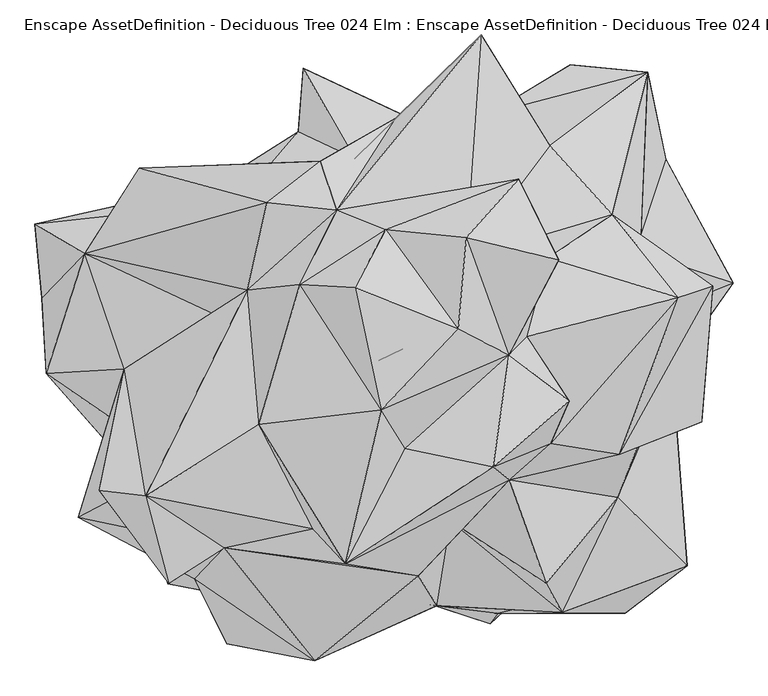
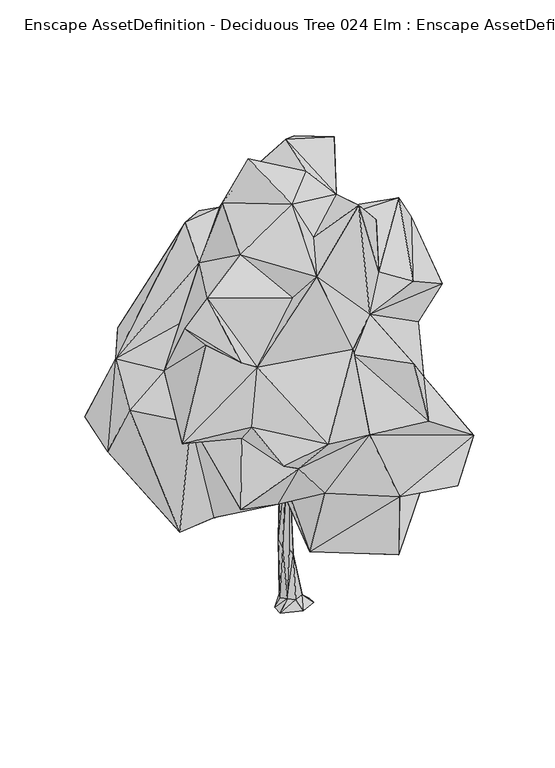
"""IFC4 building model written with IfcOpenShell, lengths in millimetres: geographic element geometry, Enscape AssetDefinition - Deciduous Tree 024 Elm : Enscape AssetDefinition - Deciduous Tree 024 Elm."""

from ifc_helpers import new_model, si_unit, origin, place, context, project, spatial, triangles, source, transform, mapped, element, save


def enscape_assetdefinition_deciduous_tree_024_elm_enscape_8f9d8ef3(model_context):
    return source(origin(), model_context, "Body", "Tessellation", [
        triangles([(399.4473478, 51.3433459, 8.4e-06), (116.8996051, 470.6509595, 7.67e-05), (414.2743498, -101.4714952, -1.65e-05), (115.2936258, -233.4533738, -3.8e-05), (82.9316567, 225.0079591, 1330.8777763), (249.1574843, 45.9123275, 138.6608949), (-113.9991554, 251.7051122, 157.0908837), (-28.7132456, 406.8779989, 6.63e-05), (-143.4901332, 226.2219475, 1412.5636333), (-161.5051128, 117.7262534, 167.2028755), (-98.1161768, -10.7666257, 205.31681), (-119.8971602, 109.5010833, 1270.5587837), (-281.381008, 109.7062851, 1.79e-05), (87.8856512, 88.0891362, 1067.7880211), (-29.369242, 30.9881589, 1260.9038498), (-20.0962547, 127.3247319, 3268.4377075), (45.847683, 179.5516857, 3264.4635315), (88.6356417, 338.1410245, 172.6388991), (46.148682, 263.7636058, 3263.5667839), (-78.834187, 269.4925984, 3270.003891), (-17.9152525, 286.6599009, 1389.8307186), (-102.0271663, 146.4107217, 3272.4979248), (-283.3269829, -95.1405136, -1.55e-05), (45.3076905, -78.6895646, 170.8398083), (3.3777281, 164.250821, 2505.7115891), (138.0966034, -825.3113245, 2827.0443008), (94.7586328, -833.5812412, 2834.8897522), (-51.0792178, 154.8678363, 2512.2934547), (-51.2032245, 183.8468087, 2552.4793739), (143.4115952, -816.5362787, 2865.5968895), (3.2537264, 193.2297934, 2545.8966362), (100.0746328, -824.8063408, 2873.4432129), (-370.3139517, 199.9007525, 2853.0982338), (-114.7981618, 178.2197903, 2641.9945496), (-87.9581849, 175.28078, 2699.3863953), (-1012.3212032, 284.8826293, 2979.622197), (-97.7131763, 263.4047251, 2651.2605537), (-84.4201923, 253.0057051, 2707.8445999), (-1005.0243376, 278.2096354, 3018.2730354), (-359.5869175, 190.0897234, 2909.9203468), (-368.5379336, 264.854673, 2863.9632683), (-1011.1132828, 329.0646163, 2987.0121529), (-357.8108994, 255.0436802, 2920.7850906), (-1003.8162718, 322.3905687, 3025.6629913), (33.3046986, 221.9467724, 2527.8175072), (1148.4995916, 490.0354231, 2988.0789482), (9.7687192, 282.053714, 2522.0998329), (-23.4122474, 273.48972, 2568.513279), (1131.6376848, 531.0373899, 2981.5563812), (1121.8286905, 533.1553928, 3020.1691406), (0.1237281, 213.3827602, 2574.2306625), (1138.6907427, 492.1533897, 3026.6911263), (1461.3994606, -1913.2647572, 6022.3980972), (2148.5237984, -1089.7975061, 4993.4504379), (2384.0084072, -486.2971338, 5763.7679535), (2814.4279198, -1746.3154999, 3855.9053375), (1616.5802502, -2192.3513557, 4858.2078209), (543.5072319, -1314.727454, 6173.6185181), (412.2733091, -2126.9073853, 4943.8866028), (999.7336721, -2202.3389729, 3406.268248), (2220.9946655, -2198.6750977, 3220.216523), (1405.2262905, -1340.0269272, 3509.7253052), (2671.1773613, 140.1805696, 4214.6340225), (2573.4144333, -771.1463894, 3081.1770447), (925.1358273, -2301.9969887, 2210.4804817), (531.4442691, -559.6486158, 3179.1411232), (319.9614292, -1755.2623375, 2610.1084145), (-679.1506239, -1162.6030186, 3302.7986916), (-646.0516994, -1786.1832699, 2509.2712555), (-453.5138515, -1994.6533939, 3864.1870995), (-1215.050108, -1617.2107349, 3657.2081635), (-2167.5162437, -1917.9585114, 4057.9136467), (-1952.6933098, -567.3235834, 2987.3429466), (-1608.8106663, 280.0867011, 2633.7677261), (-2697.1356606, -621.7964939, 2956.4843651), (-3336.1978157, 101.3554049, 5448.7179977), (-2623.6404373, 587.2153198, 3274.255085), (-1909.7363388, 1213.0925966, 3744.8336288), (-1749.4625462, 1078.6019686, 2428.7338749), (-974.7983482, 1170.2787855, 2995.6136627), (-1871.4334442, 1817.5179852, 4294.4663589), (-3375.4550125, 826.1199234, 4098.0338722), (-2586.3868973, 144.5772671, 6039.5371674), (-1851.1705822, -1404.1731571, 5215.528743), (-2418.6089115, -527.4429145, 5231.6777573), (-3028.3363747, -1281.8631809, 5437.0890564), (-2324.5139282, -910.8789213, 7151.7471863), (-1601.0566338, -2493.7951653, 5170.6803177), (-1911.3203991, -1870.7798504, 5763.6086609), (-1072.220236, -2128.6542263, 4713.9901703), (-759.575584, -2658.109845, 5469.4585922), (236.199518, -1840.8428696, 6727.3190231), (953.4227634, -796.0003956, 9035.5455734), (1109.8867596, -920.1158575, 6642.8916183), (2164.5078518, -676.8940756, 6851.1283264), (2955.5969193, -363.4792671, 6329.6607376), (1553.7223137, 280.0872643, 5348.4223755), (2362.7024403, 1184.4242884, 6023.6567413), (1506.1082142, -568.3282459, 7231.9132233), (1682.4741932, -163.4797561, 8079.545787), (1277.8135735, 456.5486953, 7902.4583405), (1478.4625179, 1208.2680365, 7551.703006), (2097.2587589, 1627.8247673, 6599.3820648), (2732.3561852, 830.9303856, 7590.1215912), (3063.2127342, 943.5924042, 6989.9838043), (2436.7964642, 2994.1846802, 5118.2654938), (1498.9712952, 2287.3350929, 6284.9489319), (1696.0751072, 3065.5809036, 4595.8017448), (911.1568113, 2592.9394043, 4927.1027435), (2612.2091583, 2159.5725426, 4567.238372), (2323.0176533, 1284.1114449, 5260.079512), (1075.0587255, 2334.3293175, 4360.8140533), (-375.86394, 2167.4852863, 5763.4697159), (3256.5904655, 971.2778509, 4150.3219597), (1639.7831944, 1453.0624695, 3499.0108429), (1810.5720428, 2691.1781754, 3757.0869507), (2345.2696381, 2341.082539, 3881.7229477), (1027.2767584, 2144.1447052, 3763.8757805), (2823.2340683, 291.7226006, 3197.9652649), (2519.6084152, -293.0187605, 2739.5063301), (1584.3022785, 1412.7535927, 2767.231382), (-453.7098424, -131.3690072, 3252.4119415), (-194.0060723, 1679.5242279, 3118.392215), (-1255.282972, 2024.3687313, 5285.0901947), (-915.1194328, 2423.5892761, 4201.9356697), (838.8519224, 3352.6761703, 6658.3726501), (-306.0299758, 1833.1445023, 6647.8994522), (-868.966436, 3032.4210091, 3702.6716675), (17.7757125, 2552.4569916, 6803.1562546), (689.906072, 1211.8991375, 6910.4793549), (1199.3806429, 1967.7750927, 8811.1522934), (1581.6392143, 1190.609812, 9129.1578827), (620.0501616, 526.3004333, 9103.8588455), (696.8490349, 1407.8504036, 9251.471347), (-75.2412059, 1483.9786057, 8708.6870361), (-371.5429101, 927.5059587, 9489.7765686), (-900.8734274, 953.0060011, 8677.4604538), (107.7426241, -618.9394735, 8513.2350128), (1105.790716, 280.0867192, 8574.3388412), (-121.632156, -251.0348588, 9099.1992462), (-1295.0860657, -389.9695833, 8483.1397568), (-464.0668047, -1728.2783741, 8516.337149), (-776.7315863, -1391.3976288, 7953.7552094), (-1625.3577667, -1573.9781994, 6821.5795486), (-2161.2231686, -1915.7930912, 7311.0229294), (-2826.952446, -1021.0939962, 7755.2777893), (-2381.4449009, -1075.2788429, 8314.644809), (-1397.7100342, 518.2758142, 6816.5275314), (-1406.521851, 902.5742683, 7555.8760071), (-1218.8761099, 1740.7905464, 7875.0193176), (-2351.1290188, 1657.1199268, 5184.9143326), (-2965.2454582, 1251.7802788, 5763.7679535), (-2444.1377312, 2074.2523144, 5763.5336655), (-545.773736, 1672.1165405, 8016.8408936), (-704.2966181, 2138.8239544, 7716.3900467), (-3443.2398285, 1536.6711742, 4469.4780602)], [[151, 124, 156], [124, 151, 153], [155, 127, 153], [127, 124, 153], [154, 155, 150], [155, 153, 150], [150, 153, 152], [153, 151, 152], [151, 156, 152], [148, 149, 152], [154, 150, 149], [149, 150, 152], [83, 149, 148], [83, 148, 152], [149, 83, 147], [147, 83, 146], [87, 146, 83], [87, 145, 146], [147, 146, 145], [144, 147, 145], [145, 87, 144], [143, 147, 144], [139, 100, 101], [139, 93, 100], [139, 138, 93], [143, 144, 142], [138, 142, 93], [141, 143, 142], [147, 143, 141], [141, 149, 147], [138, 139, 140], [140, 142, 138], [140, 141, 142], [137, 154, 149], [137, 149, 141], [137, 141, 140], [140, 136, 137], [140, 139, 133], [140, 133, 136], [136, 135, 137], [135, 154, 137], [133, 135, 136], [133, 134, 135], [133, 139, 134], [139, 132, 134], [101, 102, 139], [139, 102, 132], [134, 131, 135], [132, 102, 131], [132, 131, 134], [131, 154, 135], [131, 102, 130], [131, 130, 154], [126, 154, 130], [127, 155, 129], [129, 155, 154], [129, 154, 126], [123, 128, 118], [113, 127, 129], [124, 127, 113], [113, 129, 126], [113, 118, 128], [113, 128, 125], [125, 128, 123], [113, 125, 124], [125, 81, 124], [124, 81, 156], [123, 80, 125], [80, 81, 125], [66, 67, 122], [122, 80, 123], [122, 120, 66], [122, 123, 121], [122, 121, 120], [119, 120, 121], [63, 120, 119], [55, 63, 97], [121, 115, 119], [121, 123, 115], [119, 115, 63], [123, 118, 115], [118, 116, 115], [118, 112, 116], [113, 112, 118], [112, 117, 116], [115, 116, 117], [115, 117, 114], [97, 63, 114], [115, 114, 63], [97, 114, 111], [111, 98, 97], [111, 114, 110], [114, 117, 110], [110, 117, 112], [110, 112, 108], [108, 112, 109], [109, 112, 113], [126, 109, 113], [110, 106, 111], [106, 108, 109], [110, 108, 106], [111, 106, 98], [107, 106, 109], [107, 126, 130], [107, 109, 126], [106, 103, 98], [102, 103, 130], [107, 130, 103], [107, 103, 106], [98, 103, 105], [103, 104, 105], [101, 104, 102], [102, 104, 103], [100, 99, 101], [101, 99, 104], [93, 99, 100], [105, 104, 95], [95, 104, 99], [96, 55, 97], [96, 105, 95], [105, 96, 98], [96, 97, 98], [93, 94, 99], [94, 95, 99], [55, 96, 94], [96, 95, 94], [142, 94, 93], [94, 92, 58], [142, 92, 94], [142, 144, 92], [92, 59, 58], [59, 92, 91], [91, 92, 144], [91, 90, 59], [91, 88, 90], [88, 91, 89], [91, 144, 89], [89, 84, 88], [88, 84, 90], [84, 72, 90], [87, 86, 144], [89, 86, 84], [86, 89, 144], [86, 87, 83], [84, 85, 72], [86, 85, 84], [85, 86, 83], [85, 83, 76], [152, 76, 83], [152, 156, 82], [152, 82, 76], [156, 81, 78], [78, 81, 80], [156, 78, 82], [79, 78, 80], [122, 79, 80], [79, 77, 78], [77, 82, 78], [76, 75, 85], [77, 75, 82], [76, 82, 75], [74, 77, 79], [122, 74, 79], [74, 75, 77], [73, 85, 75], [74, 73, 75], [122, 73, 74], [71, 72, 85], [72, 71, 90], [73, 71, 85], [68, 71, 73], [122, 68, 73], [70, 71, 68], [90, 71, 70], [59, 90, 70], [69, 70, 68], [122, 67, 69], [69, 68, 122], [66, 65, 67], [67, 65, 69], [66, 120, 65], [65, 60, 69], [60, 70, 69], [70, 60, 59], [65, 62, 60], [62, 61, 60], [120, 63, 64], [120, 64, 65], [65, 64, 62], [62, 64, 61], [60, 61, 56], [64, 56, 61], [59, 60, 56], [64, 63, 56], [57, 59, 56], [58, 59, 57], [58, 57, 53], [53, 94, 58], [53, 57, 54], [54, 56, 63], [55, 54, 63], [57, 56, 54], [54, 55, 94], [54, 94, 53], [52, 51, 46], [50, 51, 52], [50, 48, 51], [49, 48, 50], [49, 47, 48], [51, 45, 46], [46, 45, 49], [45, 47, 49], [39, 43, 44], [43, 38, 41], [38, 37, 41], [44, 43, 42], [43, 41, 42], [42, 41, 36], [39, 40, 43], [36, 40, 39], [40, 38, 43], [40, 35, 38], [41, 37, 33], [37, 34, 33], [36, 33, 40], [41, 33, 36], [33, 35, 40], [33, 34, 35], [32, 29, 27], [30, 29, 32], [30, 31, 29], [26, 31, 30], [26, 25, 31], [29, 28, 27], [27, 28, 26], [28, 25, 26], [23, 4, 24], [22, 9, 16], [20, 9, 22], [20, 21, 9], [21, 18, 9], [19, 21, 20], [19, 5, 21], [5, 18, 21], [17, 5, 19], [17, 14, 5], [15, 14, 17], [9, 12, 16], [16, 12, 17], [12, 15, 17], [12, 11, 15], [15, 11, 14], [11, 24, 14], [11, 23, 24], [13, 23, 11], [12, 10, 11], [9, 10, 12], [10, 13, 11], [9, 7, 10], [18, 7, 9], [7, 8, 10], [8, 13, 10], [18, 2, 7], [2, 8, 7], [24, 6, 14], [6, 5, 14], [5, 6, 18], [3, 1, 6], [24, 4, 6], [4, 3, 6], [6, 2, 18], [6, 1, 2]], closed=False),
    ])


if __name__ == "__main__":
    model = new_model("IFC4")
    model_context = context("Model", 3, world=origin())
    ifc_project = project(units=[si_unit("LENGTHUNIT", "METRE", prefix="MILLI")], contexts=[model_context])
    site = spatial("IfcSite", under=ifc_project)
    building = spatial("IfcBuilding", under=site)
    placement = place(None, origin())
    enscape_assetdefinition_deciduous_tree_024_elm_enscape_shape = enscape_assetdefinition_deciduous_tree_024_elm_enscape_8f9d8ef3(model_context)
    element("IfcGeographicElement", 1, ObjectType="Enscape AssetDefinition - Deciduous Tree 024 Elm : Enscape AssetDefinition - Deciduous Tree 024 Elm", at=placement, inside=building, context=model_context, shape_type="MappedRepresentation", body=[
        mapped(enscape_assetdefinition_deciduous_tree_024_elm_enscape_shape, transform((0.0, 0.0, 0.0), x_axis=(1.0, 0.0, 0.0), y_axis=(0.0, 1.0, 0.0), z_axis=(0.0, 0.0, 1.0))),
    ])
    save(model, "model.ifc")
